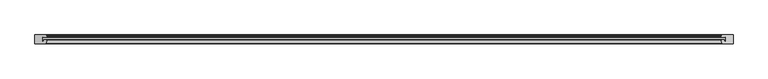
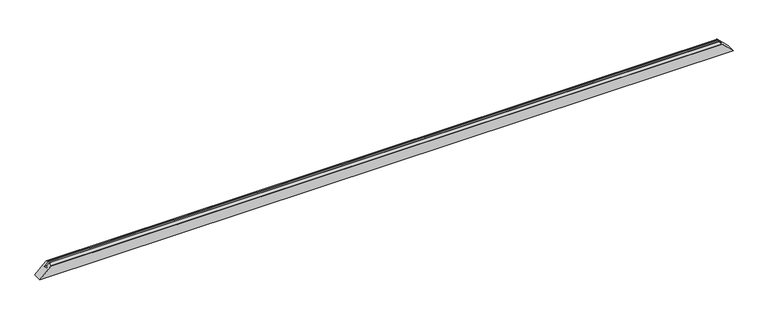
"""IFC4 building model written with IfcOpenShell, lengths in millimetres: proxy geometry, Weiku - Montante - Caixilho fixo 02.2.01.005 : Weiku - Montante - Caixilho fixo 02.2.01.005."""

from ifc_helpers import new_model, si_unit, frame, origin, place, context, project, spatial, ellipse_curve, source, transform, mapped, element, save
from ifc_brep_helpers import plane_surface, cylinder_surface, advanced_brep


def generic_models_d6f5325d(model_context):
    return source(origin(), model_context, "Body", "AdvancedBrep", [
        advanced_brep(
        [(-1930.118227, 38.5070552, 66.881773), (-1932.6019557, 47.7764571, 64.3980443), (-1935.4997332, 50.0, 61.5002668), (-1997.0, 50.0, 0.0), (-1997.0, 0.0, 0.0), (-1934.5355572, 0.0, 62.4644428), (-1933.5489094, 0.8371317, 63.4510906), (-1929.9998537, 22.3371317, 67.0001463), (-1930.9865015, 23.5, 66.0134985), (-1945.0009154, 23.5, 51.9990846), (-1945.0009154, 12.5, 51.9990846), (-1951.0, 12.5, 46.0), (-1951.0, 37.5, 46.0), (-1930.8909676, 37.5, 66.1090324), (1932.6019557, 47.7764571, 64.3980443), (1930.118227, 38.5070552, 66.881773), (1930.8909676, 37.5, 66.1090324), (1951.0, 37.5, 46.0), (1951.0, 12.5, 46.0), (1945.0009154, 12.5, 51.9990846), (1945.0009154, 23.5, 51.9990846), (1930.9865015, 23.5, 66.0134985), (1929.9998537, 22.3371317, 67.0001463), (1933.5489094, 0.8371317, 63.4510906), (1934.5355572, 0.0, 62.4644428), (1997.0, 0.0, 0.0), (1997.0, 50.0, 0.0), (1935.4997332, 50.0, 61.5002668)],
        [
            (0, 1),
            (1, 2, ellipse_curve(frame((-1935.4997332, 47.0, 61.5002668), z_axis=(-0.7071067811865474, 0.0, 0.7071067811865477), x_axis=(-0.7071067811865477, 0.0, -0.7071067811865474)), 4.2426407, 3.0)),
            (2, 3),
            (3, 4),
            (4, 5),
            (5, 6, ellipse_curve(frame((-1934.5355572, 1.0, 62.4644428), z_axis=(-0.7071067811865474, 0.0, 0.7071067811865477), x_axis=(-0.7071067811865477, 0.0, -0.7071067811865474)), 1.4142136, 1.0)),
            (6, 7),
            (7, 8, ellipse_curve(frame((-1930.9865015, 22.5, 66.0134985), z_axis=(-0.7071067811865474, 0.0, 0.7071067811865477), x_axis=(-0.7071067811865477, 0.0, -0.7071067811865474)), 1.4142136, 1.0)),
            (8, 9),
            (9, 10),
            (10, 11),
            (11, 12),
            (12, 13),
            (13, 0, ellipse_curve(frame((-1930.8909676, 38.3, 66.1090324), z_axis=(-0.7071067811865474, 0.0, 0.7071067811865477), x_axis=(-0.7071067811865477, 0.0, -0.7071067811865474)), 1.1313708, 0.8)),
            (14, 15),
            (15, 16, ellipse_curve(frame((1930.8909676, 38.3, 66.1090324), z_axis=(0.7071067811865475, 0.0, 0.7071067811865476), x_axis=(-0.7071067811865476, 0.0, 0.7071067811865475)), 1.1313708, 0.8)),
            (16, 17),
            (17, 18),
            (18, 19),
            (19, 20),
            (20, 21),
            (21, 22, ellipse_curve(frame((1930.9865015, 22.5, 66.0134985), z_axis=(0.7071067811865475, 0.0, 0.7071067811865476), x_axis=(-0.7071067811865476, 0.0, 0.7071067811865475)), 1.4142136, 1.0)),
            (22, 23),
            (23, 24, ellipse_curve(frame((1934.5355572, 1.0, 62.4644428), z_axis=(0.7071067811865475, 0.0, 0.7071067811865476), x_axis=(-0.7071067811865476, 0.0, 0.7071067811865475)), 1.4142136, 1.0)),
            (24, 25),
            (25, 26),
            (26, 27),
            (27, 14, ellipse_curve(frame((1935.4997332, 47.0, 61.5002668), z_axis=(0.7071067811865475, 0.0, 0.7071067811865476), x_axis=(-0.7071067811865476, 0.0, 0.7071067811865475)), 4.2426407, 3.0)),
            (0, 15),
            (14, 1),
            (27, 2),
            (26, 3),
            (25, 4),
            (24, 5),
            (23, 6),
            (22, 7),
            (21, 8),
            (20, 9),
            (19, 10),
            (18, 11),
            (17, 12),
            (16, 13),
        ],
        [
            plane_surface(frame((-2067.0, -15.0, -70.0), z_axis=(-0.7071067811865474, 0.0, 0.7071067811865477), x_axis=(0.0, 1.0, 0.0))),
            plane_surface(frame((1927.0, -15.0, 70.0), z_axis=(0.7071067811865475, 0.0, 0.7071067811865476), x_axis=(0.0, 1.0, 0.0))),
            plane_surface(frame((-1997.0, 38.5070552, 66.881773), z_axis=(0.0, 0.2588190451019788, 0.9659258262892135), x_axis=(1.0, 0.0, 0.0))),
            cylinder_surface(frame((-1997.0, 47.0, 61.5002668), z_axis=(-1.0, 0.0, 0.0), x_axis=(0.0, -1.0, 0.0)), 3.0),
            plane_surface(frame((-1997.0, 50.0, 61.5002668), z_axis=(0.0, 1.0, 0.0), x_axis=(1.0, 0.0, 0.0))),
            plane_surface(frame((-1997.0, 50.0, 0.0), z_axis=(0.0, 0.0, -1.0), x_axis=(1.0, 0.0, 0.0))),
            plane_surface(frame((-1997.0, 0.0, 0.0), z_axis=(0.0, -1.0, 0.0), x_axis=(1.0, 0.0, 0.0))),
            cylinder_surface(frame((-1997.0, 1.0, 62.4644428), z_axis=(-1.0, 0.0, 0.0), x_axis=(0.0, 1.0, 0.0)), 1.0),
            plane_surface(frame((-1997.0, 0.8371317, 63.4510906), z_axis=(0.0, -0.16286828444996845, 0.9866478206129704), x_axis=(1.0, 0.0, 0.0))),
            cylinder_surface(frame((-1997.0, 22.5, 66.0134985), z_axis=(-1.0, 0.0, 0.0), x_axis=(0.0, 1.0, 0.0)), 1.0),
            plane_surface(frame((-1997.0, 23.5, 66.0134985), z_axis=(0.0, 1.0, 0.0), x_axis=(1.0, 0.0, 0.0))),
            plane_surface(frame((-1997.0, 23.5, 51.9990846), z_axis=(0.0, 0.0, -1.0), x_axis=(1.0, 0.0, 0.0))),
            plane_surface(frame((-1997.0, 12.5, 51.9990846), z_axis=(0.0, 1.0, 0.0), x_axis=(1.0, 0.0, 0.0))),
            plane_surface(frame((-1997.0, 12.5, 46.0), z_axis=(0.0, 0.0, 1.0), x_axis=(1.0, 0.0, 0.0))),
            plane_surface(frame((-1997.0, 37.5, 46.0), z_axis=(0.0, -1.0, 0.0), x_axis=(1.0, 0.0, 0.0))),
            cylinder_surface(frame((-1997.0, 38.3, 66.1090324), z_axis=(-1.0, 0.0, 0.0), x_axis=(0.0, -1.0, 0.0)), 0.8),
        ],
        [
            (0, [[1, 2, 3, 4, 5, 6, 7, 8, 9, 10, 11, 12, 13, 14]]),
            (1, [[15, 16, 17, 18, 19, 20, 21, 22, 23, 24, 25, 26, 27, 28]]),
            (2, [[-1, 29, -15, 30]]),
            (3, [[-2, -30, -28, 31]]),
            (4, [[32, -3, -31, -27]]),
            (5, [[-32, -26, 33, -4]]),
            (6, [[-33, -25, 34, -5]]),
            (7, [[-6, -34, -24, 35]]),
            (8, [[-7, -35, -23, 36]]),
            (9, [[-8, -36, -22, 37]]),
            (10, [[-9, -37, -21, 38]]),
            (11, [[-10, -38, -20, 39]]),
            (12, [[-11, -39, -19, 40]]),
            (13, [[-12, -40, -18, 41]]),
            (14, [[-13, -41, -17, 42]]),
            (15, [[-14, -42, -16, -29]]),
        ],
    ),
    ])


if __name__ == "__main__":
    model = new_model("IFC4")
    model_context = context("Model", 3, world=origin())
    ifc_project = project(units=[si_unit("LENGTHUNIT", "METRE", prefix="MILLI")], contexts=[model_context])
    site = spatial("IfcSite", under=ifc_project)
    building = spatial("IfcBuilding", under=site)
    placement = place(None, origin())
    generic_models_shape = generic_models_d6f5325d(model_context)
    element("IfcBuildingElementProxy", 1, Name="Weiku - Montante - Caixilho fixo 02.2.01.005 : Weiku - Montante - Caixilho fixo 02.2.01.005", ObjectType="Weiku - Montante - Caixilho fixo 02.2.01.005 : Weiku - Montante - Caixilho fixo 02.2.01.005", at=placement, inside=building, context=model_context, shape_type="MappedRepresentation", body=[
        mapped(generic_models_shape, transform((0.0, 0.0, 0.0), x_axis=(1.0, 0.0, 0.0), y_axis=(0.0, 1.0, 0.0), z_axis=(0.0, 0.0, 1.0))),
    ])
    save(model, "model.ifc")
